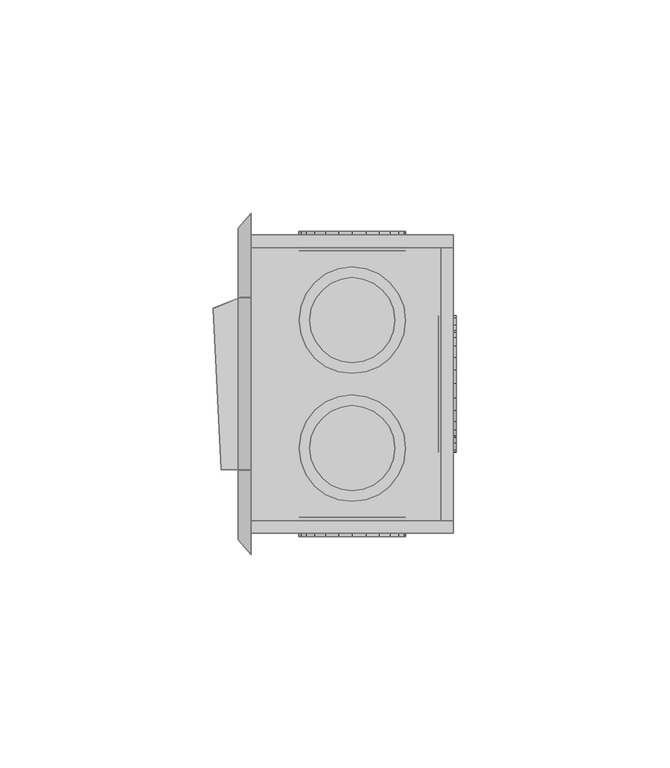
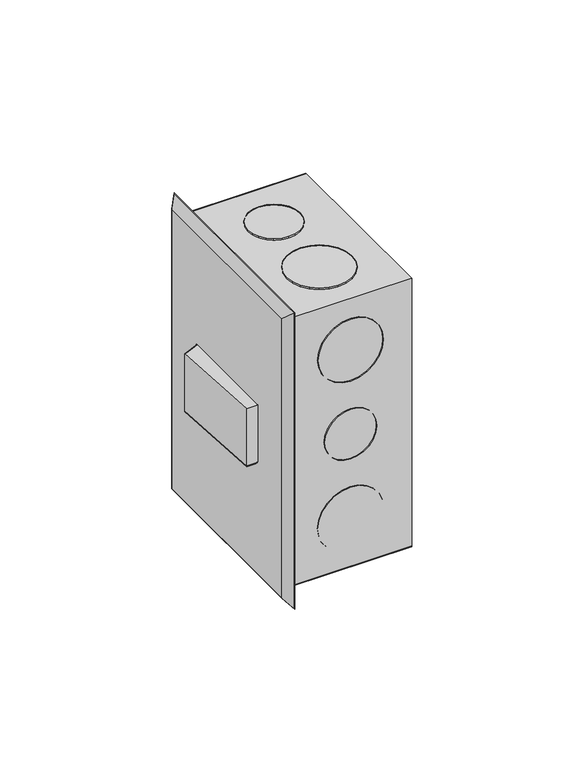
"""IFC4 building model written with IfcOpenShell, lengths in millimetres: proxy geometry,  210311 :  210311."""

from ifc_helpers import new_model, si_unit, origin, place, context, project, spatial, triangles, source, transform, mapped, element, save


def generic_models_eb62c0a2(model_context):
    return source(origin(), model_context, "Body", "Tessellation", [
        triangles([(14926.6005249, 12730.9996582, 1254.3000378), (14926.6005249, 12733.9994751, 1148.7000154), (14926.6005249, 12730.9996582, 1145.6999805), (14926.6005249, 12733.9994751, 1251.2999302), (14926.6005249, 12801.0000366, 1254.3000378), (14926.6005249, 12798.0002197, 1251.2999302), (14926.6005249, 12801.0000366, 1145.6999805), (14926.6005249, 12798.0002197, 1148.7000154), (14974.0999512, 12733.9994751, 1251.2999302), (14974.0999512, 12733.9994751, 1148.7000154), (14974.0999512, 12801.0000366, 1254.3000378), (14974.0999512, 12801.0000366, 1145.6999805), (14974.0999512, 12798.0002197, 1251.2999302), (14974.0999512, 12730.9996582, 1145.6999805), (14974.0999512, 12798.0002197, 1148.7000154), (14974.0999512, 12730.9996582, 1254.3000378), (14971.1001343, 12733.9994751, 1251.2999302), (14971.1001343, 12798.0002197, 1148.7000154), (14971.1001343, 12733.9994751, 1148.7000154), (14971.1001343, 12798.0002197, 1251.2999302), (14970.6001648, 12752.0995331, 1191.9999887), (14970.6001648, 12758.0003357, 1186.0999855), (14970.6001648, 12754.7005371, 1188.6999722), (14970.6001648, 12750.4996307, 1195.8999687), (14970.6001648, 12761.8001038, 1184.5000105), (14970.6001648, 12749.9996613, 1200.0000092), (14970.6001648, 12765.9998474, 1183.9999683), (14970.6001648, 12750.4996307, 1204.0999769), (14970.6001648, 12770.0995972, 1184.5000105), (14970.6001648, 12752.0995331, 1208.0000296), (14970.6001648, 12774.0005219, 1186.0999855), (14970.6001648, 12754.7005371, 1211.2999735), (14970.6001648, 12777.3003204, 1188.6999722), (14970.6001648, 12758.0003357, 1213.9000328), (14970.6001648, 12779.8001678, 1191.9999887), (14970.6001648, 12761.8001038, 1215.5000078), (14970.6001648, 12781.4000702, 1195.8999687), (14970.6001648, 12765.9998474, 1215.9999773), (14970.6001648, 12782.0000336, 1200.0000092), (14970.6001648, 12770.0995972, 1215.5000078), (14970.6001648, 12781.4000702, 1204.0999769), (14970.6001648, 12774.0005219, 1213.9000328), (14970.6001648, 12779.8001678, 1208.0000296), (14970.6001648, 12777.3003204, 1211.2999735), (14974.7999084, 12770.0995972, 1184.5000105), (14974.7999084, 12765.9998474, 1183.9999683), (14974.7999084, 12761.8001038, 1184.5000105), (14974.7999084, 12758.0003357, 1186.0999855), (14974.7999084, 12754.7005371, 1188.6999722), (14974.7999084, 12752.0995331, 1191.9999887), (14974.7999084, 12750.4996307, 1195.8999687), (14974.7999084, 12749.9996613, 1200.0000092), (14974.7999084, 12750.4996307, 1204.0999769), (14974.7999084, 12752.0995331, 1208.0000296), (14974.7999084, 12754.7005371, 1211.2999735), (14974.7999084, 12758.0003357, 1213.9000328), (14974.7999084, 12761.8001038, 1215.5000078), (14974.7999084, 12765.9998474, 1215.9999773), (14974.7999084, 12770.0995972, 1215.5000078), (14974.7999084, 12774.0005219, 1213.9000328), (14974.7999084, 12777.3003204, 1211.2999735), (14974.7999084, 12779.8001678, 1208.0000296), (14974.7999084, 12781.4000702, 1204.0999769), (14974.7999084, 12782.0000336, 1200.0000092), (14974.7999084, 12781.4000702, 1195.8999687), (14974.7999084, 12779.8001678, 1191.9999887), (14974.7999084, 12777.3003204, 1188.6999722), (14974.7999084, 12774.0005219, 1186.0999855), (14970.6001648, 12755.1005127, 1227.8000565), (14970.6001648, 12759.7002319, 1223.2000465), (14970.6001648, 12757.1003906, 1225.2000698), (14970.6001648, 12753.8994232, 1230.8000187), (14970.6001648, 12762.7000488, 1221.8999805), (14970.6001648, 12753.4994476, 1233.9999687), (14970.6001648, 12765.9998474, 1221.500005), (14970.6001648, 12753.8994232, 1237.2000641), (14970.6001648, 12769.1996521, 1221.8999805), (14970.6001648, 12755.1005127, 1240.3000202), (14970.6001648, 12772.199469, 1223.2000465), (14970.6001648, 12757.1003906, 1242.800013), (14970.6001648, 12774.800473, 1225.2000698), (14970.6001648, 12776.800351, 1227.8000565), (14970.6001648, 12759.7002319, 1244.8000362), (14970.6001648, 12762.7000488, 1246.0999569), (14970.6001648, 12778.0002777, 1230.8000187), (14970.6001648, 12765.9998474, 1246.4999325), (14970.6001648, 12778.5002472, 1233.9999687), (14970.6001648, 12769.1996521, 1246.0999569), (14970.6001648, 12778.0002777, 1237.2000641), (14970.6001648, 12776.800351, 1240.3000202), (14970.6001648, 12772.199469, 1244.8000362), (14970.6001648, 12774.800473, 1242.800013), (14974.7999084, 12778.0002777, 1230.8000187), (14974.7999084, 12776.800351, 1227.8000565), (14974.7999084, 12774.800473, 1225.2000698), (14974.7999084, 12772.199469, 1223.2000465), (14974.7999084, 12769.1996521, 1221.8999805), (14974.7999084, 12765.9998474, 1221.500005), (14974.7999084, 12762.7000488, 1221.8999805), (14974.7999084, 12759.7002319, 1223.2000465), (14974.7999084, 12757.1003906, 1225.2000698), (14974.7999084, 12755.1005127, 1227.8000565), (14974.7999084, 12753.8994232, 1230.8000187), (14974.7999084, 12753.4994476, 1233.9999687), (14974.7999084, 12753.8994232, 1237.2000641), (14974.7999084, 12755.1005127, 1240.3000202), (14974.7999084, 12757.1003906, 1242.800013), (14974.7999084, 12759.7002319, 1244.8000362), (14974.7999084, 12762.7000488, 1246.0999569), (14974.7999084, 12765.9998474, 1246.4999325), (14974.7999084, 12769.1996521, 1246.0999569), (14974.7999084, 12772.199469, 1244.8000362), (14974.7999084, 12774.800473, 1242.800013), (14974.7999084, 12776.800351, 1240.3000202), (14974.7999084, 12778.0002777, 1237.2000641), (14974.7999084, 12778.5002472, 1233.9999687), (14974.7999084, 12759.7002319, 1155.1999821), (14974.7999084, 12755.1005127, 1159.6999981), (14974.7999084, 12757.1003906, 1157.2000053), (14974.7999084, 12762.7000488, 1153.8999887), (14974.7999084, 12753.8994232, 1162.8000269), (14974.7999084, 12765.9998474, 1153.5000132), (14974.7999084, 12753.4994476, 1165.9999769), (14974.7999084, 12769.1996521, 1153.8999887), (14974.7999084, 12753.8994232, 1169.1999996), (14974.7999084, 12772.199469, 1155.1999821), (14974.7999084, 12755.1005127, 1172.2000345), (14974.7999084, 12774.800473, 1157.2000053), (14974.7999084, 12757.1003906, 1174.8000212), (14974.7999084, 12776.800351, 1159.6999981), (14974.7999084, 12759.7002319, 1176.7999718), (14974.7999084, 12778.0002777, 1162.8000269), (14974.7999084, 12762.7000488, 1178.0999651), (14974.7999084, 12765.9998474, 1178.5000134), (14974.7999084, 12778.5002472, 1165.9999769), (14974.7999084, 12778.0002777, 1169.1999996), (14974.7999084, 12769.1996521, 1178.0999651), (14974.7999084, 12776.800351, 1172.2000345), (14974.7999084, 12772.199469, 1176.7999718), (14974.7999084, 12774.800473, 1174.8000212), (14970.6001648, 12762.7000488, 1178.0999651), (14970.6001648, 12765.9998474, 1178.5000134), (14970.6001648, 12759.7002319, 1176.7999718), (14970.6001648, 12757.1003906, 1174.8000212), (14970.6001648, 12755.1005127, 1172.2000345), (14970.6001648, 12753.8994232, 1169.1999996), (14970.6001648, 12753.4994476, 1165.9999769), (14970.6001648, 12753.8994232, 1162.8000269), (14970.6001648, 12755.1005127, 1159.6999981), (14970.6001648, 12757.1003906, 1157.2000053), (14970.6001648, 12759.7002319, 1155.1999821), (14970.6001648, 12762.7000488, 1153.8999887), (14970.6001648, 12765.9998474, 1153.5000132), (14970.6001648, 12769.1996521, 1153.8999887), (14970.6001648, 12772.199469, 1155.1999821), (14970.6001648, 12774.800473, 1157.2000053), (14970.6001648, 12776.800351, 1159.6999981), (14970.6001648, 12778.0002777, 1162.8000269), (14970.6001648, 12778.5002472, 1165.9999769), (14970.6001648, 12778.0002777, 1169.1999996), (14970.6001648, 12776.800351, 1172.2000345), (14970.6001648, 12774.800473, 1174.8000212), (14970.6001648, 12772.199469, 1176.7999718), (14970.6001648, 12769.1996521, 1178.0999651), (14955.2999359, 12734.7994263, 1191.3000315), (14958.9997101, 12734.7994263, 1195.0000237), (14957.3998077, 12734.7994263, 1192.9000065), (14959.999649, 12734.7994263, 1197.4000225), (14952.9000824, 12734.7994263, 1190.3000198), (14960.2996307, 12734.7994263, 1200.0000092), (14950.3002411, 12734.7994263, 1189.9999655), (14947.8003937, 12734.7994263, 1190.3000198), (14959.999649, 12734.7994263, 1202.5999958), (14958.9997101, 12734.7994263, 1204.9999947), (14945.3005463, 12734.7994263, 1191.3000315), (14957.3998077, 12734.7994263, 1207.1000118), (14943.2995056, 12734.7994263, 1192.9000065), (14941.6996033, 12734.7994263, 1195.0000237), (14955.2999359, 12734.7994263, 1208.6999868), (14940.6996643, 12734.7994263, 1197.4000225), (14952.9000824, 12734.7994263, 1209.6999985), (14940.2996887, 12734.7994263, 1200.0000092), (14950.3002411, 12734.7994263, 1209.9999802), (14940.6996643, 12734.7994263, 1202.5999958), (14947.8003937, 12734.7994263, 1209.6999985), (14945.3005463, 12734.7994263, 1208.6999868), (14941.6996033, 12734.7994263, 1204.9999947), (14943.2995056, 12734.7994263, 1207.1000118), (14950.3002411, 12730.199707, 1189.9999655), (14952.9000824, 12730.199707, 1190.3000198), (14947.8003937, 12730.199707, 1190.3000198), (14945.3005463, 12730.199707, 1191.3000315), (14943.2995056, 12730.199707, 1192.9000065), (14941.6996033, 12730.199707, 1195.0000237), (14940.6996643, 12730.199707, 1197.4000225), (14940.2996887, 12730.199707, 1200.0000092), (14940.6996643, 12730.199707, 1202.5999958), (14941.6996033, 12730.199707, 1204.9999947), (14943.2995056, 12730.199707, 1207.1000118), (14945.3005463, 12730.199707, 1208.6999868), (14947.8003937, 12730.199707, 1209.6999985), (14950.3002411, 12730.199707, 1209.9999802), (14952.9000824, 12730.199707, 1209.6999985), (14955.2999359, 12730.199707, 1208.6999868), (14957.3998077, 12730.199707, 1207.1000118), (14958.9997101, 12730.199707, 1204.9999947), (14959.999649, 12730.199707, 1202.5999958), (14960.2996307, 12730.199707, 1200.0000092), (14959.999649, 12730.199707, 1197.4000225), (14958.9997101, 12730.199707, 1195.0000237), (14957.3998077, 12730.199707, 1192.9000065), (14955.2999359, 12730.199707, 1191.3000315), (14956.5998566, 12734.7994263, 1223.2000465), (14961.1995758, 12734.7994263, 1227.8000565), (14959.1996979, 12734.7994263, 1225.2000698), (14953.6000397, 12734.7994263, 1221.8999805), (14962.3995026, 12734.7994263, 1230.8000187), (14962.7994781, 12734.7994263, 1233.9999687), (14950.3002411, 12734.7994263, 1221.500005), (14947.1004364, 12734.7994263, 1221.8999805), (14962.3995026, 12734.7994263, 1237.2000641), (14961.1995758, 12734.7994263, 1240.3000202), (14944.0994568, 12734.7994263, 1223.2000465), (14941.4996155, 12734.7994263, 1225.2000698), (14959.1996979, 12734.7994263, 1242.800013), (14939.4997375, 12734.7994263, 1227.8000565), (14956.5998566, 12734.7994263, 1244.8000362), (14938.2998108, 12734.7994263, 1230.8000187), (14953.6000397, 12734.7994263, 1246.0999569), (14937.7998413, 12734.7994263, 1233.9999687), (14950.3002411, 12734.7994263, 1246.4999325), (14938.2998108, 12734.7994263, 1237.2000641), (14947.1004364, 12734.7994263, 1246.0999569), (14939.4997375, 12734.7994263, 1240.3000202), (14944.0994568, 12734.7994263, 1244.8000362), (14941.4996155, 12734.7994263, 1242.800013), (14950.3002411, 12730.199707, 1221.500005), (14953.6000397, 12730.199707, 1221.8999805), (14947.1004364, 12730.199707, 1221.8999805), (14944.0994568, 12730.199707, 1223.2000465), (14941.4996155, 12730.199707, 1225.2000698), (14939.4997375, 12730.199707, 1227.8000565), (14938.2998108, 12730.199707, 1230.8000187), (14937.7998413, 12730.199707, 1233.9999687), (14938.2998108, 12730.199707, 1237.2000641), (14939.4997375, 12730.199707, 1240.3000202), (14941.4996155, 12730.199707, 1242.800013), (14944.0994568, 12730.199707, 1244.8000362), (14947.1004364, 12730.199707, 1246.0999569), (14950.3002411, 12730.199707, 1246.4999325), (14953.6000397, 12730.199707, 1246.0999569), (14956.5998566, 12730.199707, 1244.8000362), (14959.1996979, 12730.199707, 1242.800013), (14961.1995758, 12730.199707, 1240.3000202), (14962.3995026, 12730.199707, 1237.2000641), (14962.7994781, 12730.199707, 1233.9999687), (14962.3995026, 12730.199707, 1230.8000187), (14961.1995758, 12730.199707, 1227.8000565), (14959.1996979, 12730.199707, 1225.2000698), (14956.5998566, 12730.199707, 1223.2000465), (14961.1995758, 12730.199707, 1159.6999981), (14956.5998566, 12730.199707, 1155.1999821), (14959.1996979, 12730.199707, 1157.2000053), (14962.3995026, 12730.199707, 1162.8000269), (14953.6000397, 12730.199707, 1153.8999887), (14962.7994781, 12730.199707, 1165.9999769), (14950.3002411, 12730.199707, 1153.5000132), (14962.3995026, 12730.199707, 1169.1999996), (14947.1004364, 12730.199707, 1153.8999887), (14961.1995758, 12730.199707, 1172.2000345), (14944.0994568, 12730.199707, 1155.1999821), (14959.1996979, 12730.199707, 1174.8000212), (14941.4996155, 12730.199707, 1157.2000053), (14956.5998566, 12730.199707, 1176.7999718), (14939.4997375, 12730.199707, 1159.6999981), (14953.6000397, 12730.199707, 1178.0999651), (14938.2998108, 12730.199707, 1162.8000269), (14950.3002411, 12730.199707, 1178.5000134), (14937.7998413, 12730.199707, 1165.9999769), (14947.1004364, 12730.199707, 1178.0999651), (14938.2998108, 12730.199707, 1169.1999996), (14944.0994568, 12730.199707, 1176.7999718), (14939.4997375, 12730.199707, 1172.2000345), (14941.4996155, 12730.199707, 1174.8000212), (14953.6000397, 12734.7994263, 1178.0999651), (14950.3002411, 12734.7994263, 1178.5000134), (14947.1004364, 12734.7994263, 1178.0999651), (14944.0994568, 12734.7994263, 1176.7999718), (14941.4996155, 12734.7994263, 1174.8000212), (14939.4997375, 12734.7994263, 1172.2000345), (14938.2998108, 12734.7994263, 1169.1999996), (14937.7998413, 12734.7994263, 1165.9999769), (14938.2998108, 12734.7994263, 1162.8000269), (14939.4997375, 12734.7994263, 1159.6999981), (14941.4996155, 12734.7994263, 1157.2000053), (14944.0994568, 12734.7994263, 1155.1999821), (14947.1004364, 12734.7994263, 1153.8999887), (14950.3002411, 12734.7994263, 1153.5000132), (14953.6000397, 12734.7994263, 1153.8999887), (14956.5998566, 12734.7994263, 1155.1999821), (14959.1996979, 12734.7994263, 1157.2000053), (14961.1995758, 12734.7994263, 1159.6999981), (14962.3995026, 12734.7994263, 1162.8000269), (14962.7994781, 12734.7994263, 1165.9999769), (14962.3995026, 12734.7994263, 1169.1999996), (14961.1995758, 12734.7994263, 1172.2000345), (14959.1996979, 12734.7994263, 1174.8000212), (14956.5998566, 12734.7994263, 1176.7999718), (14958.9997101, 12797.2002686, 1195.0000237), (14955.2999359, 12797.2002686, 1191.3000315), (14957.3998077, 12797.2002686, 1192.9000065), (14959.999649, 12797.2002686, 1197.4000225), (14952.9000824, 12797.2002686, 1190.3000198), (14960.2996307, 12797.2002686, 1200.0000092), (14950.3002411, 12797.2002686, 1189.9999655), (14959.999649, 12797.2002686, 1202.5999958), (14947.8003937, 12797.2002686, 1190.3000198), (14958.9997101, 12797.2002686, 1204.9999947), (14945.3005463, 12797.2002686, 1191.3000315), (14957.3998077, 12797.2002686, 1207.1000118), (14943.2995056, 12797.2002686, 1192.9000065), (14955.2999359, 12797.2002686, 1208.6999868), (14941.6996033, 12797.2002686, 1195.0000237), (14952.9000824, 12797.2002686, 1209.6999985), (14940.6996643, 12797.2002686, 1197.4000225), (14940.2996887, 12797.2002686, 1200.0000092), (14950.3002411, 12797.2002686, 1209.9999802), (14947.8003937, 12797.2002686, 1209.6999985), (14940.6996643, 12797.2002686, 1202.5999958), (14945.3005463, 12797.2002686, 1208.6999868), (14941.6996033, 12797.2002686, 1204.9999947), (14943.2995056, 12797.2002686, 1207.1000118), (14952.9000824, 12801.7999878, 1209.6999985), (14950.3002411, 12801.7999878, 1209.9999802), (14947.8003937, 12801.7999878, 1209.6999985), (14945.3005463, 12801.7999878, 1208.6999868), (14943.2995056, 12801.7999878, 1207.1000118), (14941.6996033, 12801.7999878, 1204.9999947), (14940.6996643, 12801.7999878, 1202.5999958), (14940.2996887, 12801.7999878, 1200.0000092), (14940.6996643, 12801.7999878, 1197.4000225), (14941.6996033, 12801.7999878, 1195.0000237), (14943.2995056, 12801.7999878, 1192.9000065), (14945.3005463, 12801.7999878, 1191.3000315), (14947.8003937, 12801.7999878, 1190.3000198), (14950.3002411, 12801.7999878, 1189.9999655), (14952.9000824, 12801.7999878, 1190.3000198), (14955.2999359, 12801.7999878, 1191.3000315), (14957.3998077, 12801.7999878, 1192.9000065), (14958.9997101, 12801.7999878, 1195.0000237), (14959.999649, 12801.7999878, 1197.4000225), (14960.2996307, 12801.7999878, 1200.0000092), (14959.999649, 12801.7999878, 1202.5999958), (14958.9997101, 12801.7999878, 1204.9999947), (14957.3998077, 12801.7999878, 1207.1000118), (14955.2999359, 12801.7999878, 1208.6999868), (14961.1995758, 12797.2002686, 1159.6999981), (14956.5998566, 12797.2002686, 1155.1999821), (14959.1996979, 12797.2002686, 1157.2000053), (14962.3995026, 12797.2002686, 1162.8000269), (14953.6000397, 12797.2002686, 1153.8999887), (14962.7994781, 12797.2002686, 1165.9999769), (14950.3002411, 12797.2002686, 1153.5000132), (14962.3995026, 12797.2002686, 1169.1999996), (14947.1004364, 12797.2002686, 1153.8999887), (14961.1995758, 12797.2002686, 1172.2000345), (14944.0994568, 12797.2002686, 1155.1999821), (14959.1996979, 12797.2002686, 1174.8000212), (14941.4996155, 12797.2002686, 1157.2000053), (14956.5998566, 12797.2002686, 1176.7999718), (14939.4997375, 12797.2002686, 1159.6999981), (14953.6000397, 12797.2002686, 1178.0999651), (14938.2998108, 12797.2002686, 1162.8000269), (14950.3002411, 12797.2002686, 1178.5000134), (14937.7998413, 12797.2002686, 1165.9999769), (14947.1004364, 12797.2002686, 1178.0999651), (14938.2998108, 12797.2002686, 1169.1999996), (14944.0994568, 12797.2002686, 1176.7999718), (14939.4997375, 12797.2002686, 1172.2000345), (14941.4996155, 12797.2002686, 1174.8000212), (14953.6000397, 12801.7999878, 1178.0999651), (14950.3002411, 12801.7999878, 1178.5000134), (14947.1004364, 12801.7999878, 1178.0999651), (14944.0994568, 12801.7999878, 1176.7999718), (14941.4996155, 12801.7999878, 1174.8000212), (14939.4997375, 12801.7999878, 1172.2000345), (14938.2998108, 12801.7999878, 1169.1999996), (14937.7998413, 12801.7999878, 1165.9999769), (14938.2998108, 12801.7999878, 1162.8000269), (14939.4997375, 12801.7999878, 1159.6999981), (14941.4996155, 12801.7999878, 1157.2000053), (14944.0994568, 12801.7999878, 1155.1999821), (14947.1004364, 12801.7999878, 1153.8999887), (14950.3002411, 12801.7999878, 1153.5000132), (14953.6000397, 12801.7999878, 1153.8999887), (14956.5998566, 12801.7999878, 1155.1999821), (14959.1996979, 12801.7999878, 1157.2000053), (14961.1995758, 12801.7999878, 1159.6999981), (14962.3995026, 12801.7999878, 1162.8000269), (14962.7994781, 12801.7999878, 1165.9999769), (14962.3995026, 12801.7999878, 1169.1999996), (14961.1995758, 12801.7999878, 1172.2000345), (14959.1996979, 12801.7999878, 1174.8000212), (14956.5998566, 12801.7999878, 1176.7999718), (14956.5998566, 12801.7999878, 1223.2000465), (14961.1995758, 12801.7999878, 1227.8000565), (14959.1996979, 12801.7999878, 1225.2000698), (14953.6000397, 12801.7999878, 1221.8999805), (14962.3995026, 12801.7999878, 1230.8000187), (14962.7994781, 12801.7999878, 1233.9999687), (14950.3002411, 12801.7999878, 1221.500005), (14947.1004364, 12801.7999878, 1221.8999805), (14962.3995026, 12801.7999878, 1237.2000641), (14961.1995758, 12801.7999878, 1240.3000202), (14944.0994568, 12801.7999878, 1223.2000465), (14941.4996155, 12801.7999878, 1225.2000698), (14959.1996979, 12801.7999878, 1242.800013), (14939.4997375, 12801.7999878, 1227.8000565), (14956.5998566, 12801.7999878, 1244.8000362), (14938.2998108, 12801.7999878, 1230.8000187), (14953.6000397, 12801.7999878, 1246.0999569), (14937.7998413, 12801.7999878, 1233.9999687), (14950.3002411, 12801.7999878, 1246.4999325), (14938.2998108, 12801.7999878, 1237.2000641), (14947.1004364, 12801.7999878, 1246.0999569), (14939.4997375, 12801.7999878, 1240.3000202), (14944.0994568, 12801.7999878, 1244.8000362), (14941.4996155, 12801.7999878, 1242.800013), (14950.3002411, 12797.2002686, 1221.500005), (14953.6000397, 12797.2002686, 1221.8999805), (14947.1004364, 12797.2002686, 1221.8999805), (14944.0994568, 12797.2002686, 1223.2000465), (14941.4996155, 12797.2002686, 1225.2000698), (14939.4997375, 12797.2002686, 1227.8000565), (14938.2998108, 12797.2002686, 1230.8000187), (14937.7998413, 12797.2002686, 1233.9999687), (14938.2998108, 12797.2002686, 1237.2000641), (14939.4997375, 12797.2002686, 1240.3000202), (14941.4996155, 12797.2002686, 1242.800013), (14944.0994568, 12797.2002686, 1244.8000362), (14947.1004364, 12797.2002686, 1246.0999569), (14950.3002411, 12797.2002686, 1246.4999325), (14953.6000397, 12797.2002686, 1246.0999569), (14956.5998566, 12797.2002686, 1244.8000362), (14959.1996979, 12797.2002686, 1242.800013), (14961.1995758, 12797.2002686, 1240.3000202), (14962.3995026, 12797.2002686, 1237.2000641), (14962.7994781, 12797.2002686, 1233.9999687), (14962.3995026, 12797.2002686, 1230.8000187), (14961.1995758, 12797.2002686, 1227.8000565), (14959.1996979, 12797.2002686, 1225.2000698), (14956.5998566, 12797.2002686, 1223.2000465), (14956.5998566, 12740.1002655, 1250.9999485), (14961.1995758, 12744.6999847, 1250.9999485), (14959.1996979, 12742.1001434, 1250.9999485), (14953.6000397, 12738.9003387, 1250.9999485), (14962.3995026, 12747.6998016, 1250.9999485), (14962.7994781, 12750.9996002, 1250.9999485), (14950.3002411, 12738.5003632, 1250.9999485), (14947.1004364, 12738.9003387, 1250.9999485), (14962.3995026, 12754.2005676, 1250.9999485), (14961.1995758, 12757.2003845, 1250.9999485), (14944.0994568, 12740.1002655, 1250.9999485), (14941.4996155, 12742.1001434, 1250.9999485), (14959.1996979, 12759.8002258, 1250.9999485), (14956.5998566, 12761.8001038, 1250.9999485), (14939.4997375, 12744.6999847, 1250.9999485), (14938.2998108, 12747.6998016, 1250.9999485), (14953.6000397, 12763.0000305, 1250.9999485), (14937.7998413, 12750.9996002, 1250.9999485), (14950.3002411, 12763.5, 1250.9999485), (14938.2998108, 12754.2005676, 1250.9999485), (14947.1004364, 12763.0000305, 1250.9999485), (14944.0994568, 12761.8001038, 1250.9999485), (14939.4997375, 12757.2003845, 1250.9999485), (14941.4996155, 12759.8002258, 1250.9999485), (14962.7994781, 12750.9996002, 1255.1999828), (14962.3995026, 12754.2005676, 1255.1999828), (14962.3995026, 12747.6998016, 1255.1999828), (14961.1995758, 12744.6999847, 1255.1999828), (14959.1996979, 12742.1001434, 1255.1999828), (14956.5998566, 12740.1002655, 1255.1999828), (14953.6000397, 12738.9003387, 1255.1999828), (14950.3002411, 12738.5003632, 1255.1999828), (14947.1004364, 12738.9003387, 1255.1999828), (14944.0994568, 12740.1002655, 1255.1999828), (14941.4996155, 12742.1001434, 1255.1999828), (14939.4997375, 12744.6999847, 1255.1999828), (14938.2998108, 12747.6998016, 1255.1999828), (14937.7998413, 12750.9996002, 1255.1999828), (14938.2998108, 12754.2005676, 1255.1999828), (14939.4997375, 12757.2003845, 1255.1999828), (14941.4996155, 12759.8002258, 1255.1999828), (14944.0994568, 12761.8001038, 1255.1999828), (14947.1004364, 12763.0000305, 1255.1999828), (14950.3002411, 12763.5, 1255.1999828), (14953.6000397, 12763.0000305, 1255.1999828), (14956.5998566, 12761.8001038, 1255.1999828), (14959.1996979, 12759.8002258, 1255.1999828), (14961.1995758, 12757.2003845, 1255.1999828), (14955.2999359, 12772.2994629, 1250.9999485), (14958.9997101, 12776.0003998, 1250.9999485), (14957.3998077, 12773.900528, 1250.9999485), (14959.999649, 12778.4002533, 1250.9999485), (14952.9000824, 12771.2995239, 1250.9999485), (14960.2996307, 12781.0000946, 1250.9999485), (14950.3002411, 12770.9995422, 1250.9999485), (14947.8003937, 12771.2995239, 1250.9999485), (14959.999649, 12783.5999359, 1250.9999485), (14958.9997101, 12785.9997894, 1250.9999485), (14945.3005463, 12772.2994629, 1250.9999485), (14957.3998077, 12787.9996674, 1250.9999485), (14943.2995056, 12773.900528, 1250.9999485), (14941.6996033, 12776.0003998, 1250.9999485), (14955.2999359, 12789.5995697, 1250.9999485), (14952.9000824, 12790.5995087, 1250.9999485), (14940.6996643, 12778.4002533, 1250.9999485), (14940.2996887, 12781.0000946, 1250.9999485), (14950.3002411, 12790.9994843, 1250.9999485), (14940.6996643, 12783.5999359, 1250.9999485), (14947.8003937, 12790.5995087, 1250.9999485), (14941.6996033, 12785.9997894, 1250.9999485), (14945.3005463, 12789.5995697, 1250.9999485), (14943.2995056, 12787.9996674, 1250.9999485), (14959.999649, 12783.5999359, 1255.1999828), (14958.9997101, 12785.9997894, 1255.1999828), (14960.2996307, 12781.0000946, 1255.1999828), (14959.999649, 12778.4002533, 1255.1999828), (14958.9997101, 12776.0003998, 1255.1999828), (14957.3998077, 12773.900528, 1255.1999828), (14955.2999359, 12772.2994629, 1255.1999828), (14952.9000824, 12771.2995239, 1255.1999828), (14950.3002411, 12770.9995422, 1255.1999828), (14947.8003937, 12771.2995239, 1255.1999828), (14945.3005463, 12772.2994629, 1255.1999828), (14943.2995056, 12773.900528, 1255.1999828), (14941.6996033, 12776.0003998, 1255.1999828), (14940.6996643, 12778.4002533, 1255.1999828), (14940.2996887, 12781.0000946, 1255.1999828), (14940.6996643, 12783.5999359, 1255.1999828), (14941.6996033, 12785.9997894, 1255.1999828), (14943.2995056, 12787.9996674, 1255.1999828), (14945.3005463, 12789.5995697, 1255.1999828), (14947.8003937, 12790.5995087, 1255.1999828), (14950.3002411, 12790.9994843, 1255.1999828), (14952.9000824, 12790.5995087, 1255.1999828), (14955.2999359, 12789.5995697, 1255.1999828), (14957.3998077, 12787.9996674, 1255.1999828), (14955.2999359, 12742.3001312, 1144.8000355), (14958.9997101, 12745.9999054, 1144.8000355), (14957.3998077, 12743.9000336, 1144.8000355), (14959.999649, 12748.3997589, 1144.8000355), (14952.9000824, 12741.3001923, 1144.8000355), (14960.2996307, 12750.9996002, 1144.8000355), (14950.3002411, 12741.0002106, 1144.8000355), (14947.8003937, 12741.3001923, 1144.8000355), (14959.999649, 12753.5994415, 1144.8000355), (14958.9997101, 12756.0004578, 1144.8000355), (14945.3005463, 12742.3001312, 1144.8000355), (14957.3998077, 12758.0003357, 1144.8000355), (14943.2995056, 12743.9000336, 1144.8000355), (14941.6996033, 12745.9999054, 1144.8000355), (14955.2999359, 12759.600238, 1144.8000355), (14952.9000824, 12760.600177, 1144.8000355), (14940.6996643, 12748.3997589, 1144.8000355), (14940.2996887, 12750.9996002, 1144.8000355), (14950.3002411, 12761.0001526, 1144.8000355), (14940.6996643, 12753.5994415, 1144.8000355), (14947.8003937, 12760.600177, 1144.8000355), (14941.6996033, 12756.0004578, 1144.8000355), (14945.3005463, 12759.600238, 1144.8000355), (14943.2995056, 12758.0003357, 1144.8000355), (14959.999649, 12748.3997589, 1149.099991), (14960.2996307, 12750.9996002, 1149.099991), (14958.9997101, 12745.9999054, 1149.099991), (14957.3998077, 12743.9000336, 1149.099991), (14955.2999359, 12742.3001312, 1149.099991), (14952.9000824, 12741.3001923, 1149.099991), (14950.3002411, 12741.0002106, 1149.099991), (14947.8003937, 12741.3001923, 1149.099991), (14945.3005463, 12742.3001312, 1149.099991), (14943.2995056, 12743.9000336, 1149.099991), (14941.6996033, 12745.9999054, 1149.099991), (14940.6996643, 12748.3997589, 1149.099991), (14940.2996887, 12750.9996002, 1149.099991), (14940.6996643, 12753.5994415, 1149.099991), (14941.6996033, 12756.0004578, 1149.099991), (14943.2995056, 12758.0003357, 1149.099991), (14945.3005463, 12759.600238, 1149.099991), (14947.8003937, 12760.600177, 1149.099991), (14950.3002411, 12761.0001526, 1149.099991), (14952.9000824, 12760.600177, 1149.099991), (14955.2999359, 12759.600238, 1149.099991), (14957.3998077, 12758.0003357, 1149.099991), (14958.9997101, 12756.0004578, 1149.099991), (14959.999649, 12753.5994415, 1149.099991), (14956.5998566, 12770.0995972, 1144.8000355), (14961.1995758, 12774.7004791, 1144.8000355), (14959.1996979, 12772.0994751, 1144.8000355), (14953.6000397, 12768.8996704, 1144.8000355), (14962.3995026, 12777.700296, 1144.8000355), (14962.7994781, 12781.0000946, 1144.8000355), (14950.3002411, 12768.4996948, 1144.8000355), (14947.1004364, 12768.8996704, 1144.8000355), (14962.3995026, 12784.1998993, 1144.8000355), (14961.1995758, 12787.1997162, 1144.8000355), (14944.0994568, 12770.0995972, 1144.8000355), (14941.4996155, 12772.0994751, 1144.8000355), (14959.1996979, 12789.7995575, 1144.8000355), (14956.5998566, 12791.7994354, 1144.8000355), (14939.4997375, 12774.7004791, 1144.8000355), (14938.2998108, 12777.700296, 1144.8000355), (14953.6000397, 12793.0005249, 1144.8000355), (14937.7998413, 12781.0000946, 1144.8000355), (14950.3002411, 12793.5004944, 1144.8000355), (14938.2998108, 12784.1998993, 1144.8000355), (14947.1004364, 12793.0005249, 1144.8000355), (14944.0994568, 12791.7994354, 1144.8000355), (14939.4997375, 12787.1997162, 1144.8000355), (14941.4996155, 12789.7995575, 1144.8000355), (14962.3995026, 12784.1998993, 1149.099991), (14961.1995758, 12787.1997162, 1149.099991), (14962.7994781, 12781.0000946, 1149.099991), (14962.3995026, 12777.700296, 1149.099991), (14961.1995758, 12774.7004791, 1149.099991), (14959.1996979, 12772.0994751, 1149.099991), (14956.5998566, 12770.0995972, 1149.099991), (14953.6000397, 12768.8996704, 1149.099991), (14950.3002411, 12768.4996948, 1149.099991), (14947.1004364, 12768.8996704, 1149.099991), (14944.0994568, 12770.0995972, 1149.099991), (14941.4996155, 12772.0994751, 1149.099991), (14939.4997375, 12774.7004791, 1149.099991), (14938.2998108, 12777.700296, 1149.099991), (14937.7998413, 12781.0000946, 1149.099991), (14938.2998108, 12784.1998993, 1149.099991), (14939.4997375, 12787.1997162, 1149.099991), (14941.4996155, 12789.7995575, 1149.099991), (14944.0994568, 12791.7994354, 1149.099991), (14947.1004364, 12793.0005249, 1149.099991), (14950.3002411, 12793.5004944, 1149.099991), (14953.6000397, 12793.0005249, 1149.099991), (14956.5998566, 12791.7994354, 1149.099991), (14959.1996979, 12789.7995575, 1149.099991), (14926.6005249, 12805.9997314, 1139.9999651), (14926.6005249, 12745.7999176, 1188.2999966), (14926.6005249, 12725.9999634, 1139.9999651), (14926.6005249, 12786.1997772, 1188.2999966), (14926.6005249, 12805.9997314, 1259.9999805), (14926.6005249, 12786.1997772, 1211.7000217), (14926.6005249, 12725.9999634, 1259.9999805), (14926.6005249, 12745.7999176, 1211.7000217), (14923.5995453, 12786.1997772, 1188.2999966), (14923.5995453, 12786.1997772, 1211.7000217), (14923.5995453, 12745.7999176, 1188.2999966), (14923.5995453, 12745.7999176, 1211.7000217), (14923.5995453, 12729.4997498, 1143.4999695), (14923.5995453, 12729.4997498, 1256.5000488), (14923.5995453, 12802.4999451, 1143.4999695), (14923.5995453, 12802.4999451, 1256.5000488), (14919.5997894, 12745.8999115, 1188.1000088), (14926.6005249, 12786.2997711, 1188.1000088), (14926.6005249, 12745.8999115, 1188.1000088), (14917.6999054, 12783.6999298, 1188.1000088), (14924.0995148, 12786.2997711, 1188.1000088), (14926.6005249, 12745.8999115, 1211.500034), (14926.6005249, 12786.2997711, 1211.500034), (14919.5997894, 12745.8999115, 1211.500034), (14917.6999054, 12783.6999298, 1211.500034), (14924.0995148, 12786.2997711, 1211.500034)], [[1, 2, 3], [2, 1, 4], [5, 4, 1], [4, 5, 6], [3, 2, 7], [7, 2, 8], [7, 8, 6], [7, 6, 5], [2, 9, 10], [9, 2, 4], [7, 11, 12], [11, 7, 5], [4, 13, 9], [13, 4, 6], [3, 12, 14], [12, 3, 7], [13, 8, 15], [8, 13, 6], [16, 3, 14], [3, 16, 1], [15, 2, 10], [2, 15, 8], [11, 1, 16], [1, 11, 5], [12, 10, 14], [10, 12, 15], [11, 15, 12], [15, 11, 13], [14, 10, 16], [16, 10, 9], [16, 9, 13], [16, 13, 11], [17, 18, 19], [18, 17, 20], [18, 13, 15], [13, 18, 20], [19, 15, 10], [15, 19, 18], [9, 19, 10], [19, 9, 17], [13, 17, 9], [17, 13, 20], [15, 9, 10], [9, 15, 13], [21, 22, 23], [22, 21, 24], [25, 22, 24], [25, 24, 26], [27, 25, 26], [27, 26, 28], [29, 27, 28], [29, 28, 30], [31, 29, 30], [31, 30, 32], [31, 32, 33], [33, 32, 34], [33, 34, 35], [35, 34, 36], [35, 36, 37], [37, 36, 38], [37, 38, 39], [39, 38, 40], [39, 40, 41], [41, 40, 42], [41, 42, 43], [43, 42, 44], [27, 45, 46], [45, 27, 29], [25, 46, 47], [46, 25, 27], [22, 47, 48], [47, 22, 25], [23, 48, 49], [48, 23, 22], [50, 23, 49], [23, 50, 21], [51, 21, 50], [21, 51, 24], [52, 24, 51], [24, 52, 26], [53, 26, 52], [26, 53, 28], [54, 28, 53], [28, 54, 30], [55, 30, 54], [30, 55, 32], [56, 32, 55], [32, 56, 34], [57, 34, 56], [34, 57, 36], [58, 36, 57], [36, 58, 38], [59, 38, 58], [38, 59, 40], [60, 40, 59], [40, 60, 42], [61, 42, 60], [42, 61, 44], [43, 61, 62], [61, 43, 44], [41, 62, 63], [62, 41, 43], [39, 63, 64], [63, 39, 41], [37, 64, 65], [64, 37, 39], [35, 65, 66], [65, 35, 37], [33, 66, 67], [66, 33, 35], [31, 67, 68], [67, 31, 33], [29, 68, 45], [68, 29, 31], [48, 50, 49], [50, 48, 47], [51, 50, 47], [51, 47, 46], [52, 51, 46], [52, 46, 45], [53, 52, 45], [53, 45, 68], [54, 53, 68], [54, 68, 67], [54, 67, 55], [55, 67, 66], [55, 66, 56], [56, 66, 65], [56, 65, 57], [57, 65, 64], [57, 64, 58], [58, 64, 63], [58, 63, 59], [59, 63, 62], [59, 62, 60], [60, 62, 61], [69, 70, 71], [70, 69, 72], [73, 70, 72], [73, 72, 74], [75, 73, 74], [75, 74, 76], [77, 75, 76], [77, 76, 78], [79, 77, 78], [79, 78, 80], [81, 79, 80], [81, 80, 82], [82, 80, 83], [82, 83, 84], [82, 84, 85], [85, 84, 86], [85, 86, 87], [87, 86, 88], [87, 88, 89], [89, 88, 90], [90, 88, 91], [90, 91, 92], [82, 93, 94], [93, 82, 85], [81, 94, 95], [94, 81, 82], [79, 95, 96], [95, 79, 81], [77, 96, 97], [96, 77, 79], [75, 97, 98], [97, 75, 77], [73, 98, 99], [98, 73, 75], [70, 99, 100], [99, 70, 73], [71, 100, 101], [100, 71, 70], [102, 71, 101], [71, 102, 69], [103, 69, 102], [69, 103, 72], [104, 72, 103], [72, 104, 74], [105, 74, 104], [74, 105, 76], [106, 76, 105], [76, 106, 78], [107, 78, 106], [78, 107, 80], [108, 80, 107], [80, 108, 83], [109, 83, 108], [83, 109, 84], [110, 84, 109], [84, 110, 86], [111, 86, 110], [86, 111, 88], [112, 88, 111], [88, 112, 91], [113, 91, 112], [91, 113, 92], [90, 113, 114], [113, 90, 92], [89, 114, 115], [114, 89, 90], [87, 115, 116], [115, 87, 89], [85, 116, 93], [116, 85, 87], [100, 102, 101], [102, 100, 99], [103, 102, 99], [103, 99, 98], [104, 103, 98], [104, 98, 97], [105, 104, 97], [106, 105, 97], [106, 97, 96], [106, 96, 95], [106, 95, 107], [107, 95, 94], [107, 94, 108], [108, 94, 93], [108, 93, 109], [109, 93, 116], [109, 116, 110], [110, 116, 115], [110, 115, 111], [111, 115, 114], [111, 114, 112], [112, 114, 113], [117, 118, 119], [118, 117, 120], [121, 118, 120], [121, 120, 122], [123, 121, 122], [123, 122, 124], [125, 123, 124], [125, 124, 126], [127, 125, 126], [127, 126, 128], [127, 128, 129], [129, 128, 130], [129, 130, 131], [131, 130, 132], [131, 132, 133], [133, 132, 134], [134, 132, 135], [134, 135, 136], [134, 136, 137], [137, 136, 138], [137, 138, 139], [139, 138, 140], [134, 141, 133], [141, 134, 142], [133, 143, 131], [143, 133, 141], [131, 144, 129], [144, 131, 143], [129, 145, 127], [145, 129, 144], [127, 146, 125], [146, 127, 145], [125, 147, 123], [147, 125, 146], [123, 148, 121], [148, 123, 147], [121, 149, 118], [149, 121, 148], [118, 150, 119], [150, 118, 149], [150, 117, 119], [117, 150, 151], [151, 120, 117], [120, 151, 152], [152, 122, 120], [122, 152, 153], [153, 124, 122], [124, 153, 154], [154, 126, 124], [126, 154, 155], [155, 128, 126], [128, 155, 156], [156, 130, 128], [130, 156, 157], [157, 132, 130], [132, 157, 158], [158, 135, 132], [135, 158, 159], [159, 136, 135], [136, 159, 160], [160, 138, 136], [138, 160, 161], [161, 140, 138], [140, 161, 162], [140, 163, 139], [163, 140, 162], [139, 164, 137], [164, 139, 163], [137, 142, 134], [142, 137, 164], [149, 151, 150], [151, 149, 148], [152, 151, 148], [153, 152, 148], [153, 148, 147], [153, 147, 146], [154, 153, 146], [154, 146, 145], [155, 154, 145], [155, 145, 144], [156, 155, 144], [156, 144, 157], [157, 144, 143], [157, 143, 141], [157, 141, 158], [158, 141, 142], [158, 142, 159], [159, 142, 164], [159, 164, 160], [160, 164, 163], [160, 163, 161], [161, 163, 162], [165, 166, 167], [168, 166, 165], [168, 165, 169], [170, 168, 169], [170, 169, 171], [170, 171, 172], [173, 170, 172], [174, 173, 172], [174, 172, 175], [176, 174, 175], [176, 175, 177], [176, 177, 178], [176, 178, 179], [179, 178, 180], [179, 180, 181], [181, 180, 182], [181, 182, 183], [183, 182, 184], [183, 184, 185], [185, 184, 186], [186, 184, 187], [186, 187, 188], [189, 169, 190], [169, 189, 171], [191, 171, 189], [171, 191, 172], [192, 172, 191], [172, 192, 175], [193, 175, 192], [175, 193, 177], [194, 177, 193], [177, 194, 178], [195, 178, 194], [178, 195, 180], [196, 180, 195], [180, 196, 182], [197, 182, 196], [182, 197, 184], [198, 184, 197], [184, 198, 187], [199, 187, 198], [187, 199, 188], [186, 199, 200], [199, 186, 188], [185, 200, 201], [200, 185, 186], [183, 201, 202], [201, 183, 185], [181, 202, 203], [202, 181, 183], [179, 203, 204], [203, 179, 181], [176, 204, 205], [204, 176, 179], [174, 205, 206], [205, 174, 176], [173, 206, 207], [206, 173, 174], [170, 207, 208], [207, 170, 173], [168, 208, 209], [208, 168, 170], [166, 209, 210], [209, 166, 168], [167, 210, 211], [210, 167, 166], [212, 167, 211], [167, 212, 165], [190, 165, 212], [165, 190, 169], [210, 212, 211], [212, 210, 209], [190, 212, 209], [190, 209, 208], [189, 190, 208], [189, 208, 207], [191, 189, 207], [191, 207, 206], [192, 191, 206], [192, 206, 205], [192, 205, 193], [193, 205, 204], [193, 204, 194], [194, 204, 203], [194, 203, 195], [195, 203, 196], [196, 203, 202], [196, 202, 201], [196, 201, 197], [197, 201, 200], [197, 200, 198], [198, 200, 199], [213, 214, 215], [214, 213, 216], [217, 214, 216], [218, 217, 216], [218, 216, 219], [218, 219, 220], [221, 218, 220], [222, 221, 220], [222, 220, 223], [222, 223, 224], [222, 224, 225], [225, 224, 226], [225, 226, 227], [227, 226, 228], [227, 228, 229], [229, 228, 230], [229, 230, 231], [231, 230, 232], [231, 232, 233], [233, 232, 234], [233, 234, 235], [235, 234, 236], [237, 216, 238], [216, 237, 219], [239, 219, 237], [219, 239, 220], [240, 220, 239], [220, 240, 223], [241, 223, 240], [223, 241, 224], [242, 224, 241], [224, 242, 226], [243, 226, 242], [226, 243, 228], [244, 228, 243], [228, 244, 230], [245, 230, 244], [230, 245, 232], [246, 232, 245], [232, 246, 234], [247, 234, 246], [234, 247, 236], [235, 247, 248], [247, 235, 236], [233, 248, 249], [248, 233, 235], [231, 249, 250], [249, 231, 233], [229, 250, 251], [250, 229, 231], [227, 251, 252], [251, 227, 229], [225, 252, 253], [252, 225, 227], [222, 253, 254], [253, 222, 225], [221, 254, 255], [254, 221, 222], [218, 255, 256], [255, 218, 221], [217, 256, 257], [256, 217, 218], [214, 257, 258], [257, 214, 217], [215, 258, 259], [258, 215, 214], [260, 215, 259], [215, 260, 213], [238, 213, 260], [213, 238, 216], [258, 260, 259], [260, 258, 257], [238, 260, 257], [238, 257, 256], [237, 238, 256], [237, 256, 255], [239, 237, 255], [239, 255, 254], [240, 239, 254], [240, 254, 253], [241, 240, 253], [241, 253, 252], [241, 252, 242], [242, 252, 251], [242, 251, 243], [243, 251, 244], [244, 251, 250], [244, 250, 249], [244, 249, 245], [245, 249, 246], [246, 249, 248], [246, 248, 247], [261, 262, 263], [262, 261, 264], [265, 262, 264], [265, 264, 266], [267, 265, 266], [267, 266, 268], [269, 267, 268], [269, 268, 270], [271, 269, 270], [271, 270, 272], [273, 271, 272], [273, 272, 274], [273, 274, 275], [275, 274, 276], [275, 276, 277], [277, 276, 278], [277, 278, 279], [279, 278, 280], [279, 280, 281], [281, 280, 282], [281, 282, 283], [283, 282, 284], [285, 278, 276], [278, 285, 286], [286, 280, 278], [280, 286, 287], [287, 282, 280], [282, 287, 288], [288, 284, 282], [284, 288, 289], [284, 290, 283], [290, 284, 289], [283, 291, 281], [291, 283, 290], [281, 292, 279], [292, 281, 291], [279, 293, 277], [293, 279, 292], [277, 294, 275], [294, 277, 293], [275, 295, 273], [295, 275, 294], [273, 296, 271], [296, 273, 295], [271, 297, 269], [297, 271, 296], [269, 298, 267], [298, 269, 297], [267, 299, 265], [299, 267, 298], [265, 300, 262], [300, 265, 299], [262, 301, 263], [301, 262, 300], [301, 261, 263], [261, 301, 302], [302, 264, 261], [264, 302, 303], [303, 266, 264], [266, 303, 304], [304, 268, 266], [268, 304, 305], [305, 270, 268], [270, 305, 306], [306, 272, 270], [272, 306, 307], [307, 274, 272], [274, 307, 308], [308, 276, 274], [276, 308, 285], [300, 302, 301], [302, 300, 299], [303, 302, 299], [303, 299, 298], [304, 303, 298], [304, 298, 297], [305, 304, 297], [305, 297, 296], [306, 305, 296], [306, 296, 295], [306, 295, 307], [307, 295, 294], [307, 294, 308], [308, 294, 293], [308, 293, 285], [285, 293, 286], [286, 293, 292], [286, 292, 291], [286, 291, 287], [287, 291, 288], [288, 291, 290], [288, 290, 289], [309, 310, 311], [310, 309, 312], [313, 310, 312], [313, 312, 314], [315, 313, 314], [315, 314, 316], [317, 315, 316], [317, 316, 318], [319, 317, 318], [319, 318, 320], [319, 320, 321], [321, 320, 322], [321, 322, 323], [323, 322, 324], [323, 324, 325], [325, 324, 326], [326, 324, 327], [326, 327, 328], [326, 328, 329], [329, 328, 330], [329, 330, 331], [331, 330, 332], [333, 327, 324], [327, 333, 334], [334, 328, 327], [328, 334, 335], [335, 330, 328], [330, 335, 336], [336, 332, 330], [332, 336, 337], [332, 338, 331], [338, 332, 337], [331, 339, 329], [339, 331, 338], [329, 340, 326], [340, 329, 339], [326, 341, 325], [341, 326, 340], [325, 342, 323], [342, 325, 341], [323, 343, 321], [343, 323, 342], [321, 344, 319], [344, 321, 343], [319, 345, 317], [345, 319, 344], [317, 346, 315], [346, 317, 345], [315, 347, 313], [347, 315, 346], [313, 348, 310], [348, 313, 347], [310, 349, 311], [349, 310, 348], [349, 309, 311], [309, 349, 350], [350, 312, 309], [312, 350, 351], [351, 314, 312], [314, 351, 352], [352, 316, 314], [316, 352, 353], [353, 318, 316], [318, 353, 354], [354, 320, 318], [320, 354, 355], [355, 322, 320], [322, 355, 356], [356, 324, 322], [324, 356, 333], [348, 350, 349], [351, 350, 348], [351, 348, 347], [352, 351, 347], [352, 347, 346], [352, 346, 345], [353, 352, 345], [354, 353, 345], [354, 345, 344], [355, 354, 344], [355, 344, 343], [355, 343, 342], [355, 342, 356], [356, 342, 341], [356, 341, 333], [333, 341, 340], [333, 340, 334], [334, 340, 339], [334, 339, 335], [335, 339, 336], [336, 339, 338], [336, 338, 337], [357, 358, 359], [358, 357, 360], [361, 358, 360], [361, 360, 362], [363, 361, 362], [363, 362, 364], [365, 363, 364], [365, 364, 366], [367, 365, 366], [367, 366, 368], [369, 367, 368], [369, 368, 370], [369, 370, 371], [371, 370, 372], [371, 372, 373], [373, 372, 374], [373, 374, 375], [375, 374, 376], [375, 376, 377], [377, 376, 378], [377, 378, 379], [379, 378, 380], [381, 374, 372], [374, 381, 382], [382, 376, 374], [376, 382, 383], [383, 378, 376], [378, 383, 384], [384, 380, 378], [380, 384, 385], [380, 386, 379], [386, 380, 385], [379, 387, 377], [387, 379, 386], [377, 388, 375], [388, 377, 387], [375, 389, 373], [389, 375, 388], [373, 390, 371], [390, 373, 389], [371, 391, 369], [391, 371, 390], [369, 392, 367], [392, 369, 391], [367, 393, 365], [393, 367, 392], [365, 394, 363], [394, 365, 393], [363, 395, 361], [395, 363, 394], [361, 396, 358], [396, 361, 395], [358, 397, 359], [397, 358, 396], [397, 357, 359], [357, 397, 398], [398, 360, 357], [360, 398, 399], [399, 362, 360], [362, 399, 400], [400, 364, 362], [364, 400, 401], [401, 366, 364], [366, 401, 402], [402, 368, 366], [368, 402, 403], [403, 370, 368], [370, 403, 404], [404, 372, 370], [372, 404, 381], [396, 398, 397], [398, 396, 395], [399, 398, 395], [399, 395, 394], [400, 399, 394], [400, 394, 393], [401, 400, 393], [401, 393, 392], [402, 401, 392], [402, 392, 391], [402, 391, 403], [403, 391, 390], [403, 390, 404], [404, 390, 389], [404, 389, 381], [381, 389, 382], [382, 389, 388], [382, 388, 387], [382, 387, 383], [383, 387, 384], [384, 387, 386], [384, 386, 385], [405, 406, 407], [406, 405, 408], [409, 406, 408], [410, 409, 408], [410, 408, 411], [410, 411, 412], [413, 410, 412], [414, 413, 412], [414, 412, 415], [414, 415, 416], [414, 416, 417], [417, 416, 418], [417, 418, 419], [419, 418, 420], [419, 420, 421], [421, 420, 422], [421, 422, 423], [423, 422, 424], [423, 424, 425], [425, 424, 426], [425, 426, 427], [427, 426, 428], [429, 408, 430], [408, 429, 411], [431, 411, 429], [411, 431, 412], [432, 412, 431], [412, 432, 415], [433, 415, 432], [415, 433, 416], [434, 416, 433], [416, 434, 418], [435, 418, 434], [418, 435, 420], [436, 420, 435], [420, 436, 422], [437, 422, 436], [422, 437, 424], [438, 424, 437], [424, 438, 426], [439, 426, 438], [426, 439, 428], [427, 439, 440], [439, 427, 428], [425, 440, 441], [440, 425, 427], [423, 441, 442], [441, 423, 425], [421, 442, 443], [442, 421, 423], [419, 443, 444], [443, 419, 421], [417, 444, 445], [444, 417, 419], [414, 445, 446], [445, 414, 417], [413, 446, 447], [446, 413, 414], [410, 447, 448], [447, 410, 413], [409, 448, 449], [448, 409, 410], [406, 449, 450], [449, 406, 409], [407, 450, 451], [450, 407, 406], [452, 407, 451], [407, 452, 405], [430, 405, 452], [405, 430, 408], [450, 452, 451], [452, 450, 449], [430, 452, 449], [430, 449, 448], [429, 430, 448], [429, 448, 447], [431, 429, 447], [431, 447, 446], [432, 431, 446], [432, 446, 445], [433, 432, 445], [433, 445, 444], [433, 444, 434], [434, 444, 443], [434, 443, 435], [435, 443, 436], [436, 443, 442], [436, 442, 441], [436, 441, 437], [437, 441, 438], [438, 441, 440], [438, 440, 439], [453, 454, 455], [454, 453, 456], [457, 454, 456], [458, 457, 456], [458, 456, 459], [458, 459, 460], [461, 458, 460], [462, 461, 460], [462, 460, 463], [462, 463, 464], [462, 464, 465], [465, 464, 466], [466, 464, 467], [466, 467, 468], [466, 468, 469], [469, 468, 470], [469, 470, 471], [471, 470, 472], [471, 472, 473], [473, 472, 474], [474, 472, 475], [474, 475, 476], [461, 477, 458], [477, 461, 478], [458, 479, 457], [479, 458, 477], [457, 480, 454], [480, 457, 479], [454, 481, 455], [481, 454, 480], [481, 453, 455], [453, 481, 482], [482, 456, 453], [456, 482, 483], [483, 459, 456], [459, 483, 484], [484, 460, 459], [460, 484, 485], [485, 463, 460], [463, 485, 486], [486, 464, 463], [464, 486, 487], [487, 467, 464], [467, 487, 488], [488, 468, 467], [468, 488, 489], [489, 470, 468], [470, 489, 490], [490, 472, 470], [472, 490, 491], [491, 475, 472], [475, 491, 492], [492, 476, 475], [476, 492, 493], [476, 494, 474], [494, 476, 493], [474, 495, 473], [495, 474, 494], [473, 496, 471], [496, 473, 495], [471, 497, 469], [497, 471, 496], [469, 498, 466], [498, 469, 497], [466, 499, 465], [499, 466, 498], [465, 500, 462], [500, 465, 499], [462, 478, 461], [478, 462, 500], [480, 482, 481], [483, 482, 480], [483, 480, 479], [483, 479, 477], [484, 483, 477], [485, 484, 477], [485, 477, 478], [485, 478, 500], [486, 485, 500], [487, 486, 500], [487, 500, 499], [487, 499, 498], [487, 498, 488], [488, 498, 489], [489, 498, 497], [489, 497, 490], [490, 497, 496], [490, 496, 491], [491, 496, 495], [491, 495, 494], [491, 494, 492], [492, 494, 493], [501, 502, 503], [504, 502, 501], [504, 501, 505], [506, 504, 505], [506, 505, 507], [506, 507, 508], [509, 506, 508], [510, 509, 508], [510, 508, 511], [512, 510, 511], [512, 511, 513], [512, 513, 514], [512, 514, 515], [515, 514, 516], [516, 514, 517], [516, 517, 518], [516, 518, 519], [519, 518, 520], [519, 520, 521], [521, 520, 522], [521, 522, 523], [523, 522, 524], [510, 525, 509], [525, 510, 526], [509, 527, 506], [527, 509, 525], [506, 528, 504], [528, 506, 527], [504, 529, 502], [529, 504, 528], [502, 530, 503], [530, 502, 529], [530, 501, 503], [501, 530, 531], [531, 505, 501], [505, 531, 532], [532, 507, 505], [507, 532, 533], [533, 508, 507], [508, 533, 534], [534, 511, 508], [511, 534, 535], [535, 513, 511], [513, 535, 536], [536, 514, 513], [514, 536, 537], [537, 517, 514], [517, 537, 538], [538, 518, 517], [518, 538, 539], [539, 520, 518], [520, 539, 540], [540, 522, 520], [522, 540, 541], [541, 524, 522], [524, 541, 542], [524, 543, 523], [543, 524, 542], [523, 544, 521], [544, 523, 543], [521, 545, 519], [545, 521, 544], [519, 546, 516], [546, 519, 545], [516, 547, 515], [547, 516, 546], [515, 548, 512], [548, 515, 547], [512, 526, 510], [526, 512, 548], [529, 531, 530], [531, 529, 528], [532, 531, 528], [532, 528, 527], [533, 532, 527], [534, 533, 527], [534, 527, 525], [534, 525, 526], [535, 534, 526], [535, 526, 548], [535, 548, 536], [536, 548, 537], [537, 548, 547], [537, 547, 546], [537, 546, 538], [538, 546, 539], [539, 546, 545], [539, 545, 540], [540, 545, 544], [540, 544, 541], [541, 544, 543], [541, 543, 542], [549, 550, 551], [552, 550, 549], [552, 549, 553], [554, 552, 553], [554, 553, 555], [554, 555, 556], [557, 554, 556], [558, 557, 556], [558, 556, 559], [560, 558, 559], [560, 559, 561], [560, 561, 562], [560, 562, 563], [563, 562, 564], [564, 562, 565], [564, 565, 566], [564, 566, 567], [567, 566, 568], [567, 568, 569], [569, 568, 570], [569, 570, 571], [571, 570, 572], [554, 573, 552], [573, 554, 574], [552, 575, 550], [575, 552, 573], [550, 576, 551], [576, 550, 575], [576, 549, 551], [549, 576, 577], [577, 553, 549], [553, 577, 578], [578, 555, 553], [555, 578, 579], [579, 556, 555], [556, 579, 580], [580, 559, 556], [559, 580, 581], [581, 561, 559], [561, 581, 582], [582, 562, 561], [562, 582, 583], [583, 565, 562], [565, 583, 584], [584, 566, 565], [566, 584, 585], [585, 568, 566], [568, 585, 586], [586, 570, 568], [570, 586, 587], [587, 572, 570], [572, 587, 588], [572, 589, 571], [589, 572, 588], [571, 590, 569], [590, 571, 589], [569, 591, 567], [591, 569, 590], [567, 592, 564], [592, 567, 591], [564, 593, 563], [593, 564, 592], [563, 594, 560], [594, 563, 593], [560, 595, 558], [595, 560, 594], [558, 596, 557], [596, 558, 595], [557, 574, 554], [574, 557, 596], [575, 577, 576], [577, 575, 573], [578, 577, 573], [578, 573, 574], [579, 578, 574], [580, 579, 574], [580, 574, 596], [580, 596, 595], [581, 580, 595], [581, 595, 594], [581, 594, 582], [582, 594, 583], [583, 594, 593], [583, 593, 592], [583, 592, 584], [584, 592, 585], [585, 592, 591], [585, 591, 586], [586, 591, 590], [586, 590, 587], [587, 590, 589], [587, 589, 588], [597, 598, 599], [598, 597, 600], [601, 598, 600], [602, 601, 600], [602, 600, 603], [602, 603, 604], [605, 602, 604], [606, 605, 604], [606, 604, 607], [606, 607, 608], [606, 608, 609], [609, 608, 610], [610, 608, 611], [610, 611, 612], [610, 612, 613], [613, 612, 614], [613, 614, 615], [615, 614, 616], [615, 616, 617], [617, 616, 618], [618, 616, 619], [618, 619, 620], [606, 621, 605], [621, 606, 622], [605, 623, 602], [623, 605, 621], [602, 624, 601], [624, 602, 623], [601, 625, 598], [625, 601, 624], [598, 626, 599], [626, 598, 625], [626, 597, 599], [597, 626, 627], [627, 600, 597], [600, 627, 628], [628, 603, 600], [603, 628, 629], [629, 604, 603], [604, 629, 630], [630, 607, 604], [607, 630, 631], [631, 608, 607], [608, 631, 632], [632, 611, 608], [611, 632, 633], [633, 612, 611], [612, 633, 634], [634, 614, 612], [614, 634, 635], [635, 616, 614], [616, 635, 636], [636, 619, 616], [619, 636, 637], [637, 620, 619], [620, 637, 638], [620, 639, 618], [639, 620, 638], [618, 640, 617], [640, 618, 639], [617, 641, 615], [641, 617, 640], [615, 642, 613], [642, 615, 641], [613, 643, 610], [643, 613, 642], [610, 644, 609], [644, 610, 643], [609, 622, 606], [622, 609, 644], [625, 627, 626], [628, 627, 625], [628, 625, 624], [628, 624, 623], [629, 628, 623], [630, 629, 623], [630, 623, 621], [630, 621, 622], [631, 630, 622], [632, 631, 622], [632, 622, 644], [632, 644, 643], [632, 643, 633], [633, 643, 634], [634, 643, 642], [634, 642, 635], [635, 642, 641], [635, 641, 636], [636, 641, 640], [636, 640, 639], [636, 639, 637], [637, 639, 638], [645, 646, 647], [646, 645, 648], [649, 648, 645], [648, 649, 650], [647, 646, 651], [651, 646, 652], [651, 652, 650], [651, 650, 649], [650, 653, 648], [653, 650, 654], [648, 655, 646], [655, 648, 653], [655, 652, 646], [652, 655, 656], [656, 650, 652], [650, 656, 654], [651, 657, 647], [657, 651, 658], [647, 657, 645], [645, 657, 659], [660, 645, 659], [645, 660, 649], [651, 660, 658], [649, 660, 651], [658, 655, 657], [655, 658, 656], [654, 656, 658], [654, 658, 660], [655, 659, 657], [659, 655, 653], [659, 653, 660], [660, 653, 654], [661, 662, 663], [662, 661, 664], [662, 664, 665], [662, 666, 663], [666, 662, 667], [666, 661, 663], [661, 666, 668], [668, 664, 661], [664, 668, 669], [664, 670, 665], [670, 664, 669], [665, 667, 662], [667, 665, 670], [667, 668, 666], [668, 667, 669], [669, 667, 670]], closed=False),
    ])


if __name__ == "__main__":
    model = new_model("IFC4")
    model_context = context("Model", 3, world=origin())
    ifc_project = project(units=[si_unit("LENGTHUNIT", "METRE", prefix="MILLI")], contexts=[model_context])
    site = spatial("IfcSite", under=ifc_project)
    building = spatial("IfcBuilding", under=site)
    placement = place(None, origin())
    generic_models_shape = generic_models_eb62c0a2(model_context)
    element("IfcBuildingElementProxy", 1, Name=" 210311 :  210311", ObjectType=" 210311 :  210311", at=placement, inside=building, context=model_context, shape_type="MappedRepresentation", body=[
        mapped(generic_models_shape, transform((0.0, 0.0, 0.0), x_axis=(1.0, 0.0, 0.0), y_axis=(0.0, 1.0, 0.0), z_axis=(0.0, 0.0, 1.0))),
    ])
    save(model, "model.ifc")
